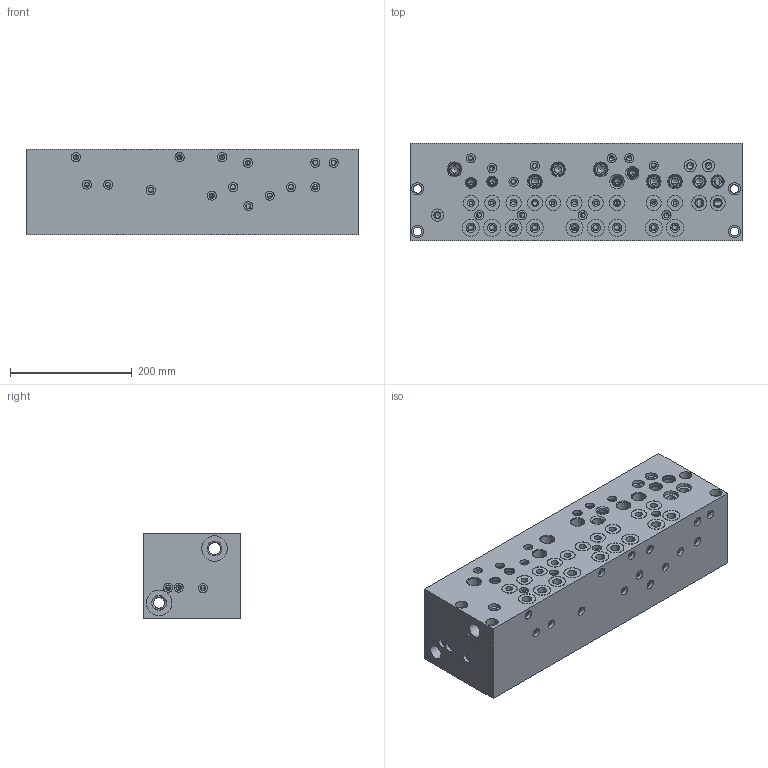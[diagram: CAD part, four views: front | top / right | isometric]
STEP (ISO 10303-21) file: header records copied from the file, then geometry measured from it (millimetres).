
FILE_DESCRIPTION(('STEP AP214'), '1');
FILE_NAME('鍛鍧 2', '', ('UNSPECIFIED'), ('UNSPECIFIED'), 'ASCON STEP Converter 1.6', 'ASCON Math Kernel', '');
FILE_SCHEMA(('AUTOMOTIVE_DESIGN { 1 0 10303 214 3 1 1}'));
Length unit declared in the file: millimetre
Bounding box: 545 x 160 x 140 mm (x, y, z)
Surface area: 704160.2 mm2 (no closed solid volume)
Topology: 0 solids, 1 shells, 752 faces, 1880 edges, 1162 vertices
Faces by surface type: cylinder 389, cone 233, plane 114, torus 16
Full cylindrical faces by diameter (mm): 4.134 x28, 4.5 x4, 6 x18, 6.5 x16, 8 x72, 8.566 x41, 10 x19, 11.445 x23, 12 x10, 13.13 x4, 14 x5, 14.58 x4, 14.95 x11, 15 x41, 16.7 x4, 17.5 x8, 17.91 x4, 18 x1, 18.632 x1, 18.64 x8, 20 x18, 20.68 x8, 21.87 x8, 24.118 x4, 25 x12, 28 x9, 34 x1, 42 x4
Entity records: 51625 total; most frequent: CARTESIAN_POINT 30448, DIRECTION 2992, ORIENTED_EDGE 2466, EDGE_LOOP 1603, AXIS2_PLACEMENT_3D 1490, EDGE_CURVE 1233, VERTEX_POINT 1093, FACE_OUTER_BOUND 867
